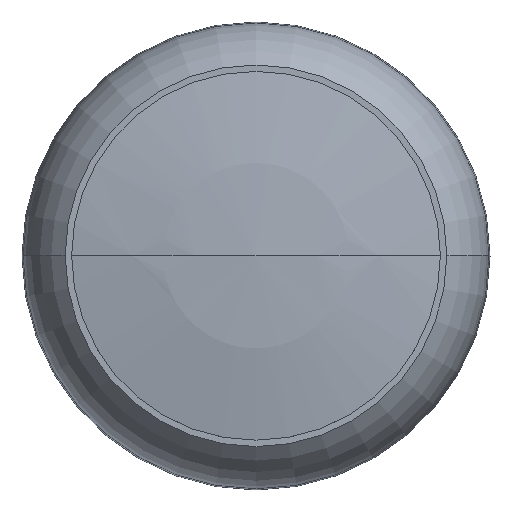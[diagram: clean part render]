
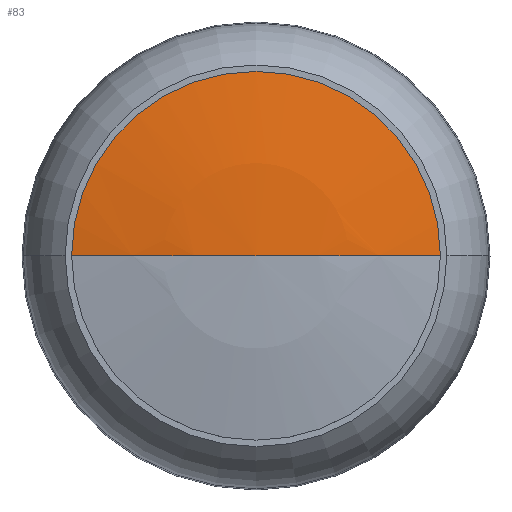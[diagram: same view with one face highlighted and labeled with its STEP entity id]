
A CAD part, top view. The second image highlights one B-rep face of the part: STEP entity #83.
In plain terms, the highlighted spherical face has radius 60 mm.
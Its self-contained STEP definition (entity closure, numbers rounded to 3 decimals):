
#83 = ADVANCED_FACE( '', ( #158 ), #159, .T. );
#158 = FACE_OUTER_BOUND( '', #298, .T. );
#159 = SPHERICAL_SURFACE( '', #299, 60. );
#298 = EDGE_LOOP( '', ( #479, #480, #481 ) );
#299 = AXIS2_PLACEMENT_3D( '', #482, #483, #484 );
#479 = ORIENTED_EDGE( '', *, *, #966, .F. );
#480 = ORIENTED_EDGE( '', *, *, #967, .F. );
#481 = ORIENTED_EDGE( '', *, *, #968, .F. );
#482 = CARTESIAN_POINT( '', ( 0., 0., -29.5 ) );
#483 = DIRECTION( '', ( 0., 0., 1. ) );
#484 = DIRECTION( '', ( 1., 0., 0. ) );
#966 = EDGE_CURVE( '', #1152, #1147, #1153, .T. );
#967 = EDGE_CURVE( '', #1144, #1152, #1154, .T. );
#968 = EDGE_CURVE( '', #1147, #1144, #1155, .T. );
#1144 = VERTEX_POINT( '', #1413 );
#1147 = VERTEX_POINT( '', #1417 );
#1152 = VERTEX_POINT( '', #1423 );
#1153 = CIRCLE( '', #1424, 60. );
#1154 = CIRCLE( '', #1425, 60. );
#1155 = CIRCLE( '', #1426, 11.7 );
#1413 = CARTESIAN_POINT( '', ( 11.7, 0., 29.348 ) );
#1417 = CARTESIAN_POINT( '', ( -11.7, 0., 29.348 ) );
#1423 = CARTESIAN_POINT( '', ( 0., 0., 30.5 ) );
#1424 = AXIS2_PLACEMENT_3D( '', #1849, #1850, #1851 );
#1425 = AXIS2_PLACEMENT_3D( '', #1852, #1853, #1854 );
#1426 = AXIS2_PLACEMENT_3D( '', #1855, #1856, #1857 );
#1849 = CARTESIAN_POINT( '', ( 0., 0., -29.5 ) );
#1850 = DIRECTION( '', ( 0., -1., 0. ) );
#1851 = DIRECTION( '', ( 0., 0., 1. ) );
#1852 = CARTESIAN_POINT( '', ( 0., 0., -29.5 ) );
#1853 = DIRECTION( '', ( 0., -1., 0. ) );
#1854 = DIRECTION( '', ( 0., 0., 1. ) );
#1855 = CARTESIAN_POINT( '', ( 0., 0., 29.348 ) );
#1856 = DIRECTION( '', ( 0., 0., -1. ) );
#1857 = DIRECTION( '', ( 1., 0., 0. ) );
